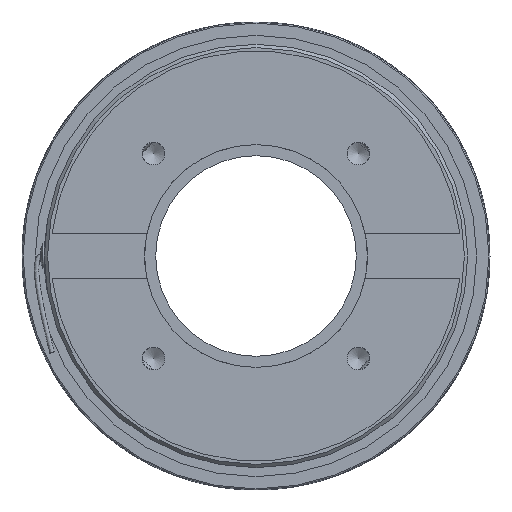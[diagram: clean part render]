
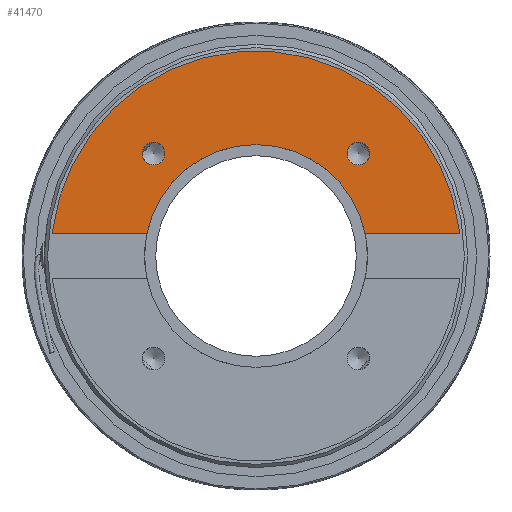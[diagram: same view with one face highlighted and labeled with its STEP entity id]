
A CAD part, left-side view. The second image highlights one B-rep face of the part: STEP entity #41470.
In plain terms, the highlighted planar face has unit normal (-1, 0, 0).
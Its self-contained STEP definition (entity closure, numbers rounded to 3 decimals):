
#204=FACE_BOUND('',#6990,.T.);
#205=FACE_BOUND('',#6991,.T.);
#4864=FACE_OUTER_BOUND('',#6989,.T.);
#6989=EDGE_LOOP('',(#35178,#35179,#35180,#35181));
#6990=EDGE_LOOP('',(#35182));
#6991=EDGE_LOOP('',(#35183));
#9286=LINE('',#78188,#11548);
#9288=LINE('',#78194,#11550);
#11548=VECTOR('',#61013,10.);
#11550=VECTOR('',#61017,10.);
#12819=CIRCLE('',#47257,50.);
#12821=CIRCLE('',#47260,92.);
#12823=CIRCLE('',#47264,5.053);
#12824=CIRCLE('',#47265,5.053);
#16899=VERTEX_POINT('',#78182);
#16901=VERTEX_POINT('',#78186);
#16902=VERTEX_POINT('',#78190);
#16904=VERTEX_POINT('',#78193);
#16909=VERTEX_POINT('',#78218);
#16910=VERTEX_POINT('',#78220);
#23009=EDGE_CURVE('',#16899,#16901,#9286,.T.);
#23011=EDGE_CURVE('',#16904,#16902,#9288,.T.);
#23022=EDGE_CURVE('',#16901,#16904,#12819,.T.);
#23024=EDGE_CURVE('',#16899,#16902,#12821,.T.);
#23026=EDGE_CURVE('',#16909,#16909,#12823,.T.);
#23027=EDGE_CURVE('',#16910,#16910,#12824,.T.);
#35178=ORIENTED_EDGE('',*,*,#23011,.T.);
#35179=ORIENTED_EDGE('',*,*,#23024,.F.);
#35180=ORIENTED_EDGE('',*,*,#23009,.T.);
#35181=ORIENTED_EDGE('',*,*,#23022,.T.);
#35182=ORIENTED_EDGE('',*,*,#23026,.T.);
#35183=ORIENTED_EDGE('',*,*,#23027,.T.);
#37356=PLANE('',#47263);
#41470=ADVANCED_FACE('',(#4864,#204,#205),#37356,.T.);
#47257=AXIS2_PLACEMENT_3D('',#78211,#61039,#61040);
#47260=AXIS2_PLACEMENT_3D('',#78214,#61045,#61046);
#47263=AXIS2_PLACEMENT_3D('',#78217,#61051,#61052);
#47264=AXIS2_PLACEMENT_3D('',#78219,#61053,#61054);
#47265=AXIS2_PLACEMENT_3D('',#78221,#61055,#61056);
#61013=DIRECTION('',(0.,-1.,0.));
#61017=DIRECTION('',(0.,-1.,0.));
#61039=DIRECTION('center_axis',(1.,0.,0.));
#61040=DIRECTION('ref_axis',(0.,0.,-1.));
#61045=DIRECTION('center_axis',(1.,0.,0.));
#61046=DIRECTION('ref_axis',(0.,0.,-1.));
#61051=DIRECTION('center_axis',(-1.,0.,0.));
#61052=DIRECTION('ref_axis',(0.,0.,1.));
#61053=DIRECTION('center_axis',(1.,0.,0.));
#61054=DIRECTION('ref_axis',(0.,0.,1.));
#61055=DIRECTION('center_axis',(1.,0.,0.));
#61056=DIRECTION('ref_axis',(0.,0.,1.));
#78182=CARTESIAN_POINT('',(-31.166,82.5,10.));
#78186=CARTESIAN_POINT('',(-31.166,40.035,10.));
#78188=CARTESIAN_POINT('',(-31.166,90.795,10.));
#78190=CARTESIAN_POINT('',(-31.166,-100.41,10.));
#78193=CARTESIAN_POINT('',(-31.166,-57.945,10.));
#78194=CARTESIAN_POINT('',(-31.166,90.795,10.));
#78211=CARTESIAN_POINT('Origin',(-31.166,-8.955,0.));
#78214=CARTESIAN_POINT('Origin',(-31.166,-8.955,0.));
#78217=CARTESIAN_POINT('Origin',(-31.166,83.045,0.));
#78218=CARTESIAN_POINT('',(-31.166,-54.917,40.909));
#78219=CARTESIAN_POINT('Origin',(-31.166,-54.917,45.962));
#78220=CARTESIAN_POINT('',(-31.166,37.007,40.909));
#78221=CARTESIAN_POINT('Origin',(-31.166,37.007,45.962));
